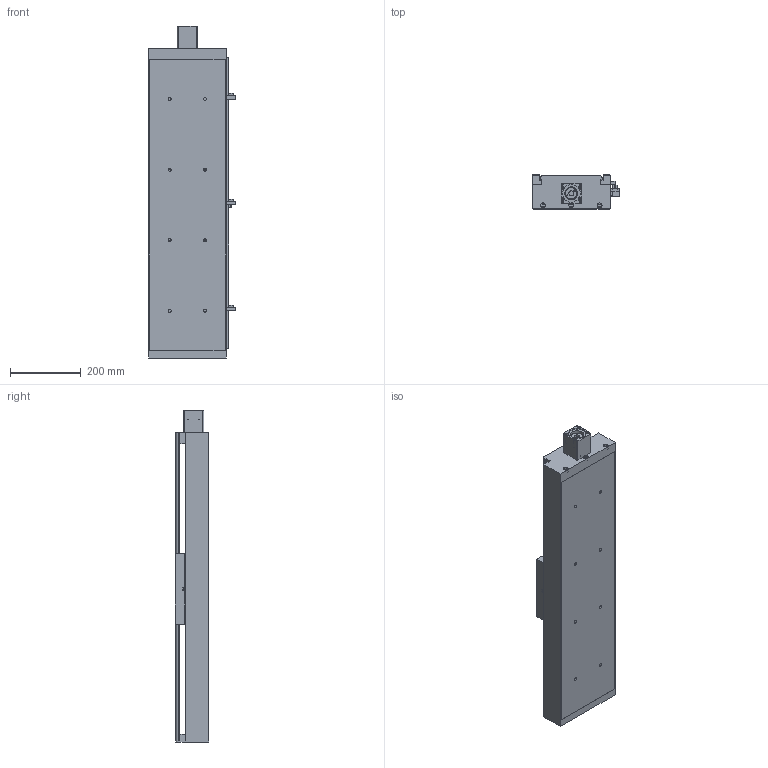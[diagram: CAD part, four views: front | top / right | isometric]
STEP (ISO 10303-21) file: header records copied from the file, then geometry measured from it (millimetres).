
FILE_DESCRIPTION((''),'2;1');
FILE_NAME('E:\libraries\UIA actuator library 2016\standard actuator\UIA220R20NDC\UIA220R20NDC ball screw 25\UIA220R20NDC-_ _ _-R25_ _ stp file, 01May16\UIA220R20NDC-600-R25_ _-M60-P13-C10-S.stp','2016-04-29T17:29:10',('h029'),(''),'Autodesk Inventor 11','Autodesk Inventor 11','');
FILE_SCHEMA(('AUTOMOTIVE_DESIGN { 1 0 10303 214 1 1 1 1 }'));
Length unit declared in the file: millimetre
Products named in the file (10): UIA220R20NDC-600-R25_ _; UIA220R20NDC-body; 41-100 0010 CARRIAGE; sensor rail; Sensor Switch; motor mount M60; SOH-32C; SOH-32C-3; SOH-32C-1; SOH-32C-2
Assembly tree (9 placements, depth 3):
  UIA220R20NDC-600-R25_ _
    UIA220R20NDC-body
    41-100 0010 CARRIAGE
    sensor rail
    Sensor Switch
    motor mount M60
    SOH-32C
      SOH-32C-3
      SOH-32C-1
      SOH-32C-2
Bounding box: 246.5 x 96 x 941 mm (x, y, z)
Volume: 5780779 mm3; surface area: 1325879.1 mm2
Topology: 8 solids, 8 shells, 511 faces, 1365 edges, 897 vertices
Faces by surface type: plane 342, bspline 121, cylinder 46, cone 2
Full cylindrical faces by diameter (mm): 3.242 x2, 4.5 x2, 7 x4, 7.5 x2, 13.8 x3, 14 x6, 17 x1, 32 x3, 37 x1, 50.3 x1, 50.5 x1
Entity records: 16706 total; most frequent: CARTESIAN_POINT 4729, ORIENTED_EDGE 2328, DIRECTION 2277, EDGE_CURVE 1164, VECTOR 849, LINE 849, VERTEX_POINT 823, EDGE_LOOP 741
